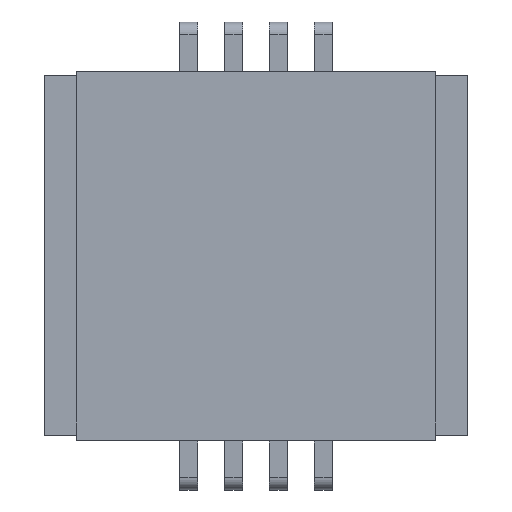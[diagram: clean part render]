
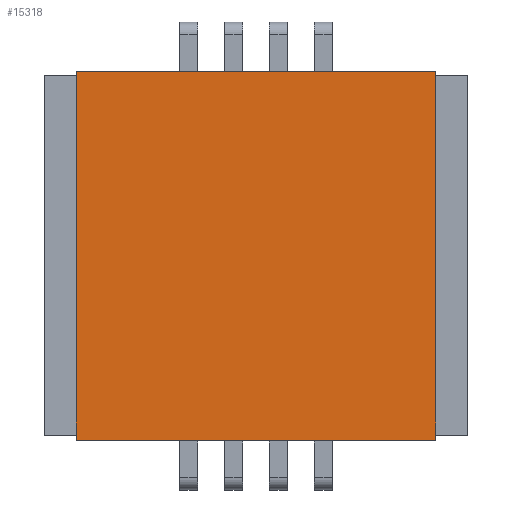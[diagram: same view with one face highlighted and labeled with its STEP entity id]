
A CAD part, top view. The second image highlights one B-rep face of the part: STEP entity #15318.
In plain terms, the highlighted planar face has unit normal (0, 0, 1).
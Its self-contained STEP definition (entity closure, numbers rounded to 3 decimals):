
#15266=CARTESIAN_POINT('Vertex',(-2.,2.05,2.85)) ;
#15269=CARTESIAN_POINT('Line Origine',(0.,2.05,2.85)) ;
#15273=CARTESIAN_POINT('Vertex',(2.,2.05,2.85)) ;
#15288=CARTESIAN_POINT('Axis2P3D Location',(0.,-2.05,2.85)) ;
#15293=CARTESIAN_POINT('Line Origine',(-2.,0.,2.85)) ;
#15297=CARTESIAN_POINT('Vertex',(-2.,-2.05,2.85)) ;
#15300=CARTESIAN_POINT('Line Origine',(0.,-2.05,2.85)) ;
#15304=CARTESIAN_POINT('Vertex',(2.,-2.05,2.85)) ;
#15307=CARTESIAN_POINT('Line Origine',(2.,0.,2.85)) ;
#15270=DIRECTION('Vector Direction',(1.,0.,0.)) ;
#15289=DIRECTION('Axis2P3D Direction',(0.,0.,-1.)) ;
#15290=DIRECTION('Axis2P3D XDirection',(0.,1.,0.)) ;
#15294=DIRECTION('Vector Direction',(0.,1.,0.)) ;
#15301=DIRECTION('Vector Direction',(1.,0.,0.)) ;
#15308=DIRECTION('Vector Direction',(0.,1.,0.)) ;
#15291=AXIS2_PLACEMENT_3D('Plane Axis2P3D',#15288,#15289,#15290) ;
#15313=ORIENTED_EDGE('',*,*,#15275,.F.) ;
#15314=ORIENTED_EDGE('',*,*,#15299,.T.) ;
#15315=ORIENTED_EDGE('',*,*,#15306,.T.) ;
#15316=ORIENTED_EDGE('',*,*,#15311,.F.) ;
#15271=VECTOR('Line Direction',#15270,1.) ;
#15295=VECTOR('Line Direction',#15294,1.) ;
#15302=VECTOR('Line Direction',#15301,1.) ;
#15309=VECTOR('Line Direction',#15308,1.) ;
#15318=ADVANCED_FACE('\X2\76D65B50\X0\',(#15317),#15292,.F.) ;
#15275=EDGE_CURVE('',#15267,#15274,#15272,.T.) ;
#15299=EDGE_CURVE('',#15267,#15298,#15296,.F.) ;
#15306=EDGE_CURVE('',#15298,#15305,#15303,.T.) ;
#15311=EDGE_CURVE('',#15274,#15305,#15310,.F.) ;
#15312=EDGE_LOOP('',(#15313,#15314,#15315,#15316)) ;
#15317=FACE_OUTER_BOUND('',#15312,.T.) ;
#15272=LINE('Line',#15269,#15271) ;
#15296=LINE('Line',#15293,#15295) ;
#15303=LINE('Line',#15300,#15302) ;
#15310=LINE('Line',#15307,#15309) ;
#15292=PLANE('Plane',#15291) ;
#15267=VERTEX_POINT('',#15266) ;
#15274=VERTEX_POINT('',#15273) ;
#15298=VERTEX_POINT('',#15297) ;
#15305=VERTEX_POINT('',#15304) ;
